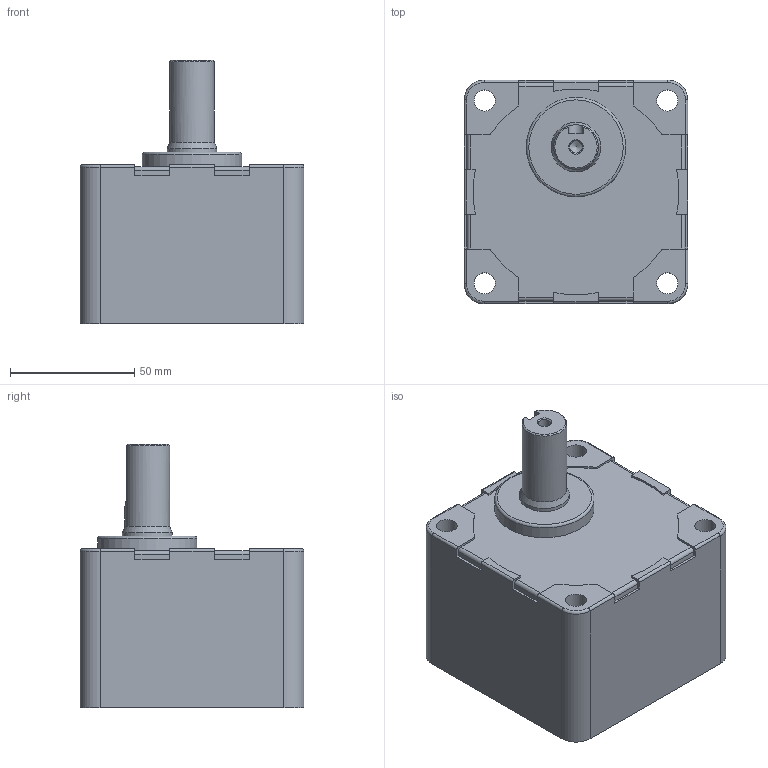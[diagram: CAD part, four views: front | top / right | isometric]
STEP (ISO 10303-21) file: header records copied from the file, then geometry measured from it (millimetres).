
FILE_DESCRIPTION(/* description */ (''),/* implementation_level */ '2;1');
FILE_NAME(/* name */ 'E:\도면작업\2016\0704) 미주향 SG 도면\3D GEAR HEAD\SG9KB120~300.stp',/* time_stamp */ '2016-07-22T14:04:53+09:00',/* author */ ('jy-jung'),/* organization */ (''),/* preprocessor_version */ 'ST-DEVELOPER v15.6',/* originating_system */ 'Autodesk Inventor 2015',/* authorisation */ '');
FILE_SCHEMA (('AUTOMOTIVE_DESIGN { 1 0 10303 214 3 1 1 }'));
Length unit declared in the file: millimetre
Products named in the file (1): SG9KB120~300
Bounding box: 90 x 90 x 106 mm (x, y, z)
Volume: 495944.3 mm3; surface area: 48822.7 mm2
Topology: 1 solids, 1 shells, 106 faces, 285 edges, 185 vertices
Faces by surface type: plane 53, cylinder 42, cone 6, torus 5
Full cylindrical faces by diameter (mm): 4.917 x1, 8.5 x4, 9 x1, 18 x1, 20 x1, 40 x1, 83 x1
Entity records: 3284 total; most frequent: CARTESIAN_POINT 581, DIRECTION 570, ORIENTED_EDGE 536, EDGE_CURVE 268, AXIS2_PLACEMENT_3D 199, VERTEX_POINT 184, LINE 172, VECTOR 172
